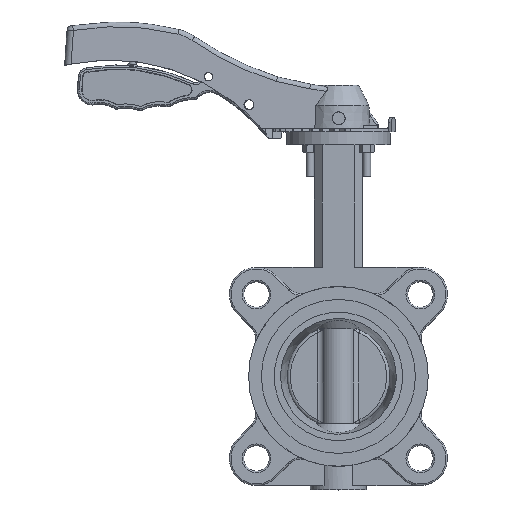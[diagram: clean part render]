
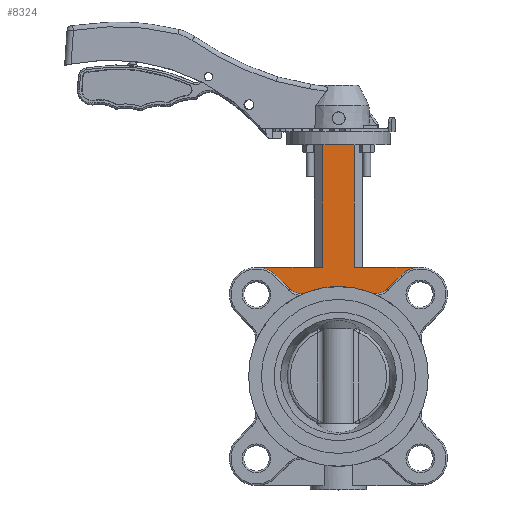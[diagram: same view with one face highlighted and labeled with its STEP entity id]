
A CAD part, top view. The second image highlights one B-rep face of the part: STEP entity #8324.
In plain terms, the highlighted planar face has unit normal (0, 0, 1).
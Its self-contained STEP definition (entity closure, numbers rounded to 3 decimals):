
#261 = DIRECTION ( 'NONE',  ( 1., 0., 0. ) ) ;
#1491 = CARTESIAN_POINT ( 'NONE',  ( -63.186, 5.363, 15. ) ) ;
#2341 = CARTESIAN_POINT ( 'NONE',  ( -63.186, 82.098, 15. ) ) ;
#2895 = ORIENTED_EDGE ( 'NONE', *, *, #15489, .T. ) ;
#3028 = VERTEX_POINT ( 'NONE', #17089 ) ;
#3512 = EDGE_CURVE ( 'NONE', #59042, #28181, #8227, .T. ) ;
#3795 = CARTESIAN_POINT ( 'NONE',  ( -63.186, -11.637, 15. ) ) ;
#4201 = CARTESIAN_POINT ( 'NONE',  ( -42.641, -8.141, 15. ) ) ;
#4586 = CARTESIAN_POINT ( 'NONE',  ( -1.921, 5.363, 15. ) ) ;
#5283 = DIRECTION ( 'NONE',  ( 0., 0., 1. ) ) ;
#5878 = EDGE_CURVE ( 'NONE', #44705, #39108, #23421, .T. ) ;
#8227 = LINE ( 'NONE', #37848, #25071 ) ;
#8324 = ADVANCED_FACE ( 'NONE', ( #22423 ), #27602, .T. ) ;
#8494 = CARTESIAN_POINT ( 'NONE',  ( -11.921, -62.902, 15. ) ) ;
#10006 = ORIENTED_EDGE ( 'NONE', *, *, #41555, .T. ) ;
#10198 = DIRECTION ( 'NONE',  ( 0., 0., 1. ) ) ;
#10321 = CIRCLE ( 'NONE', #45248, 10. ) ;
#10737 = VECTOR ( 'NONE', #18938, 1000. ) ;
#10958 = EDGE_CURVE ( 'NONE', #28181, #44705, #58868, .T. ) ;
#13712 = EDGE_CURVE ( 'NONE', #50565, #15387, #40787, .T. ) ;
#13962 = CARTESIAN_POINT ( 'NONE',  ( 8.155, -10.41, 15. ) ) ;
#14705 = CARTESIAN_POINT ( 'NONE',  ( -1.921, 82.098, 15. ) ) ;
#15387 = VERTEX_POINT ( 'NONE', #14705 ) ;
#15489 = EDGE_CURVE ( 'NONE', #39108, #21623, #57038, .T. ) ;
#16114 = DIRECTION ( 'NONE',  ( -1., 0., 0. ) ) ;
#17089 = CARTESIAN_POINT ( 'NONE',  ( 18.798, -8.141, 15. ) ) ;
#17308 = DIRECTION ( 'NONE',  ( 0.707, 0.707, 0. ) ) ;
#17560 = EDGE_CURVE ( 'NONE', #19551, #50565, #18618, .T. ) ;
#17682 = DIRECTION ( 'NONE',  ( 1., 0., 0. ) ) ;
#18618 = LINE ( 'NONE', #52715, #10737 ) ;
#18809 = EDGE_CURVE ( 'NONE', #3028, #51825, #60774, .T. ) ;
#18938 = DIRECTION ( 'NONE',  ( -1., 0., 0. ) ) ;
#19545 = DIRECTION ( 'NONE',  ( 0., 0., -1. ) ) ;
#19551 = VERTEX_POINT ( 'NONE', #50998 ) ;
#20785 = AXIS2_PLACEMENT_3D ( 'NONE', #3795, #53644, #23066 ) ;
#21015 = CARTESIAN_POINT ( 'NONE',  ( 11.727, -1.07, 15. ) ) ;
#21593 = LINE ( 'NONE', #2341, #36561 ) ;
#21623 = VERTEX_POINT ( 'NONE', #54434 ) ;
#21697 = VERTEX_POINT ( 'NONE', #36380 ) ;
#22423 = FACE_OUTER_BOUND ( 'NONE', #39514, .T. ) ;
#23066 = DIRECTION ( 'NONE',  ( 1., 0., 0. ) ) ;
#23421 = LINE ( 'NONE', #43007, #36733 ) ;
#23940 = DIRECTION ( 'NONE',  ( 1., 0., 0. ) ) ;
#25071 = VECTOR ( 'NONE', #46507, 1000. ) ;
#27602 = PLANE ( 'NONE',  #20785 ) ;
#27886 = ORIENTED_EDGE ( 'NONE', *, *, #39349, .T. ) ;
#28152 = DIRECTION ( 'NONE',  ( 0., 0., -1. ) ) ;
#28181 = VERTEX_POINT ( 'NONE', #1491 ) ;
#29329 = AXIS2_PLACEMENT_3D ( 'NONE', #30147, #10198, #29835 ) ;
#29835 = DIRECTION ( 'NONE',  ( 1., 0., 0. ) ) ;
#30147 = CARTESIAN_POINT ( 'NONE',  ( -35.57, -1.07, 15. ) ) ;
#31138 = AXIS2_PLACEMENT_3D ( 'NONE', #63541, #19545, #261 ) ;
#32575 = CIRCLE ( 'NONE', #45837, 17. ) ;
#33029 = EDGE_CURVE ( 'NONE', #40752, #3028, #10321, .T. ) ;
#35587 = LINE ( 'NONE', #51302, #51272 ) ;
#36380 = CARTESIAN_POINT ( 'NONE',  ( -21.921, 82.098, 15. ) ) ;
#36561 = VECTOR ( 'NONE', #16114, 1000. ) ;
#36733 = VECTOR ( 'NONE', #62620, 1000. ) ;
#37806 = EDGE_CURVE ( 'NONE', #15387, #21697, #21593, .T. ) ;
#37848 = CARTESIAN_POINT ( 'NONE',  ( -63.186, 5.363, 15. ) ) ;
#37962 = CARTESIAN_POINT ( 'NONE',  ( 39.344, -11.637, 15. ) ) ;
#39108 = VERTEX_POINT ( 'NONE', #4201 ) ;
#39349 = EDGE_CURVE ( 'NONE', #51825, #19551, #32575, .T. ) ;
#39433 = ORIENTED_EDGE ( 'NONE', *, *, #10958, .T. ) ;
#39514 = EDGE_LOOP ( 'NONE', ( #10006, #59616, #41387, #27886, #42328, #58855, #62867, #60763, #61570, #39433, #51299, #2895 ) ) ;
#39950 = CARTESIAN_POINT ( 'NONE',  ( -51.166, 0.384, 15. ) ) ;
#40752 = VERTEX_POINT ( 'NONE', #13962 ) ;
#40787 = LINE ( 'NONE', #44313, #55993 ) ;
#41387 = ORIENTED_EDGE ( 'NONE', *, *, #18809, .T. ) ;
#41555 = EDGE_CURVE ( 'NONE', #21623, #40752, #60361, .T. ) ;
#41768 = CARTESIAN_POINT ( 'NONE',  ( 27.323, 0.384, 15. ) ) ;
#42328 = ORIENTED_EDGE ( 'NONE', *, *, #17560, .T. ) ;
#43007 = CARTESIAN_POINT ( 'NONE',  ( -37.778, -13.003, 15. ) ) ;
#44313 = CARTESIAN_POINT ( 'NONE',  ( -1.921, -133.904, 15. ) ) ;
#44634 = DIRECTION ( 'NONE',  ( 0., 1., 0. ) ) ;
#44705 = VERTEX_POINT ( 'NONE', #39950 ) ;
#44787 = VECTOR ( 'NONE', #17308, 1000. ) ;
#45248 = AXIS2_PLACEMENT_3D ( 'NONE', #21015, #5283, #59005 ) ;
#45837 = AXIS2_PLACEMENT_3D ( 'NONE', #37962, #62055, #17682 ) ;
#46507 = DIRECTION ( 'NONE',  ( -1., 0., 0. ) ) ;
#50565 = VERTEX_POINT ( 'NONE', #4586 ) ;
#50998 = CARTESIAN_POINT ( 'NONE',  ( 39.344, 5.363, 15. ) ) ;
#51272 = VECTOR ( 'NONE', #55211, 1000. ) ;
#51299 = ORIENTED_EDGE ( 'NONE', *, *, #5878, .T. ) ;
#51302 = CARTESIAN_POINT ( 'NONE',  ( -21.921, -133.904, 15. ) ) ;
#51825 = VERTEX_POINT ( 'NONE', #59403 ) ;
#51866 = EDGE_CURVE ( 'NONE', #59042, #21697, #35587, .T. ) ;
#52715 = CARTESIAN_POINT ( 'NONE',  ( -63.186, 5.363, 15. ) ) ;
#53644 = DIRECTION ( 'NONE',  ( 0., 0., 1. ) ) ;
#54434 = CARTESIAN_POINT ( 'NONE',  ( -31.997, -10.41, 15. ) ) ;
#55211 = DIRECTION ( 'NONE',  ( 0., 1., 0. ) ) ;
#55993 = VECTOR ( 'NONE', #44634, 1000. ) ;
#57038 = CIRCLE ( 'NONE', #29329, 10. ) ;
#57264 = AXIS2_PLACEMENT_3D ( 'NONE', #8494, #28152, #23940 ) ;
#58855 = ORIENTED_EDGE ( 'NONE', *, *, #13712, .T. ) ;
#58868 = CIRCLE ( 'NONE', #31138, 17. ) ;
#59005 = DIRECTION ( 'NONE',  ( 1., 0., 0. ) ) ;
#59042 = VERTEX_POINT ( 'NONE', #62149 ) ;
#59403 = CARTESIAN_POINT ( 'NONE',  ( 27.323, 0.384, 15. ) ) ;
#59616 = ORIENTED_EDGE ( 'NONE', *, *, #33029, .T. ) ;
#60361 = CIRCLE ( 'NONE', #57264, 56.2 ) ;
#60763 = ORIENTED_EDGE ( 'NONE', *, *, #51866, .F. ) ;
#60774 = LINE ( 'NONE', #41768, #44787 ) ;
#61570 = ORIENTED_EDGE ( 'NONE', *, *, #3512, .T. ) ;
#62055 = DIRECTION ( 'NONE',  ( 0., 0., -1. ) ) ;
#62149 = CARTESIAN_POINT ( 'NONE',  ( -21.921, 5.363, 15. ) ) ;
#62620 = DIRECTION ( 'NONE',  ( 0.707, -0.707, 0. ) ) ;
#62867 = ORIENTED_EDGE ( 'NONE', *, *, #37806, .T. ) ;
#63541 = CARTESIAN_POINT ( 'NONE',  ( -63.186, -11.637, 15. ) ) ;
